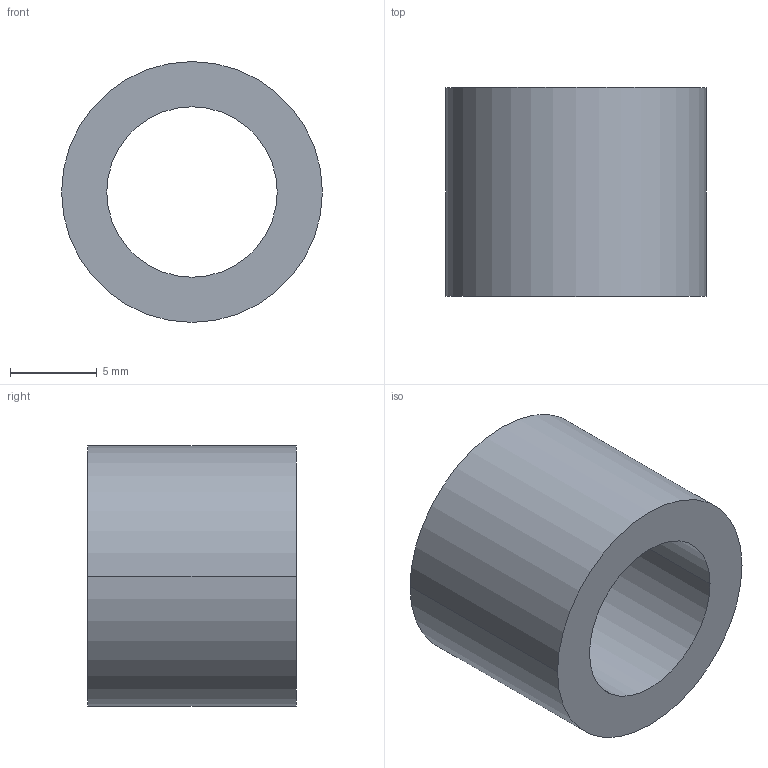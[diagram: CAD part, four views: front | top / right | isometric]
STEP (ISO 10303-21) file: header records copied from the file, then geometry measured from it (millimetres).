
FILE_DESCRIPTION (( 'STEP AP203' ), '1' );
FILE_NAME ('30800.WPP15E9.8.step', '2019-01-23T22:33:33', ( '' ), ( '' ), 'SwSTEP 2.0', 'SolidWorks 2017', '' );
FILE_SCHEMA (( 'CONFIG_CONTROL_DESIGN' ));
Length unit declared in the file: millimetre
Products named in the file (1): 30800.WPP15E9.8
Bounding box: 15 x 12 x 15 mm (x, y, z)
Volume: 1186.6 mm3; surface area: 1112.9 mm2
Topology: 1 solids, 1 shells, 8 faces, 16 edges, 10 vertices
Faces by surface type: cylinder 4, torus 2, plane 2
Entity records: 297 total; most frequent: DIRECTION 46, CARTESIAN_POINT 35, ORIENTED_EDGE 32, AXIS2_PLACEMENT_3D 21, EDGE_CURVE 16, CIRCLE 12, EDGE_LOOP 10, VERTEX_POINT 10
